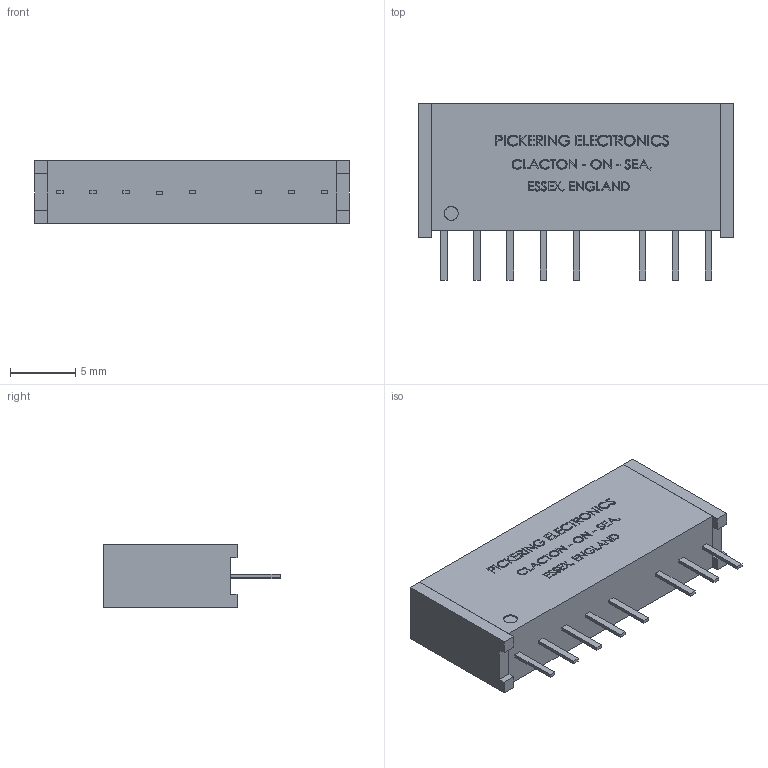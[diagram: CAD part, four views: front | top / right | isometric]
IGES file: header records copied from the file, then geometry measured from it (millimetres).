
Start section: SolidWorks IGES file using analytic representation for surfaces
Global section: file name: T:\Relays in Solidworks\Batch 5\107-2-C-x-xx.IGS; native system: SolidWorks 2009; preprocessor: SolidWorks 2009; author: alex.leming; date: 100630.141011; units: millimetre
Bounding box: 24.1 x 13.5 x 4.8 mm (x, y, z)
Surface area: 1062 mm2 (no closed solid volume)
Topology: 0 solids, 0 shells, 1013 faces, 8453 edges, 8453 vertices
Faces by surface type: bspline 1011, revolution 2
